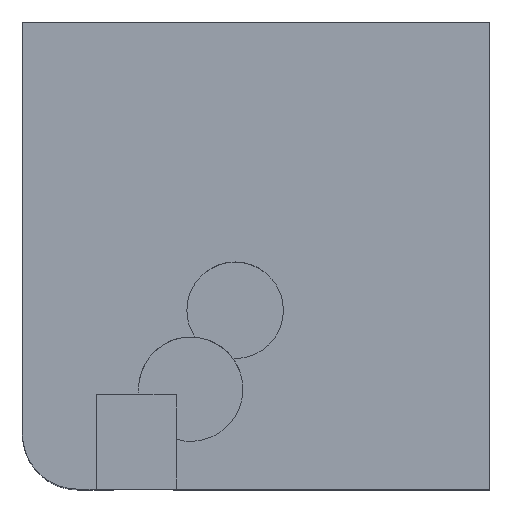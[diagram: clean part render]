
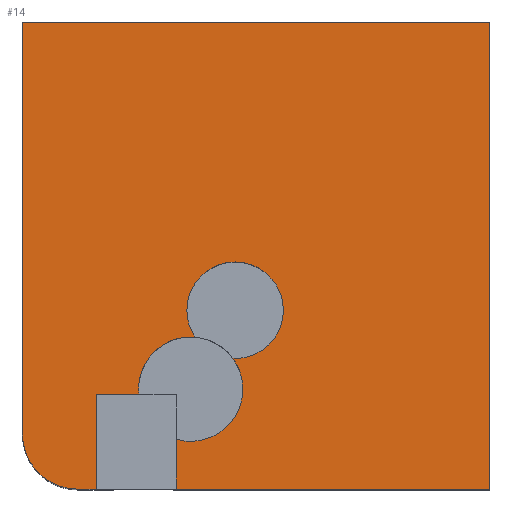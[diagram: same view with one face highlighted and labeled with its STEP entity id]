
A CAD part, top view. The second image highlights one B-rep face of the part: STEP entity #14.
In plain terms, the highlighted planar face has unit normal (0, 0, 1).
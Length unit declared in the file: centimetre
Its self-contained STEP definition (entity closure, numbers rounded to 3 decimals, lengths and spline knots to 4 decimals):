
#3 = ORIENTED_EDGE ( 'NONE', *, *, #1206, .T. ) ;
#14 = ADVANCED_FACE ( 'NONE', ( #28 ), #1259, .T. ) ;
#17 = CARTESIAN_POINT ( 'NONE',  ( 455.3777, 383.009, 1000. ) ) ;
#24 = VERTEX_POINT ( 'NONE', #489 ) ;
#28 = FACE_OUTER_BOUND ( 'NONE', #1355, .T. ) ;
#49 = DIRECTION ( 'NONE',  ( 0., 0., 1. ) ) ;
#78 = CARTESIAN_POINT ( 'NONE',  ( 360.2032, 214.2385, 1000. ) ) ;
#79 = DIRECTION ( 'NONE',  ( 0., 0., 1. ) ) ;
#133 = AXIS2_PLACEMENT_3D ( 'NONE', #17, #1215, #987 ) ;
#142 = VERTEX_POINT ( 'NONE', #724 ) ;
#149 = DIRECTION ( 'NONE',  ( 1., 0., 0. ) ) ;
#156 = ORIENTED_EDGE ( 'NONE', *, *, #160, .T. ) ;
#160 = EDGE_CURVE ( 'NONE', #674, #773, #851, .T. ) ;
#170 = CARTESIAN_POINT ( 'NONE',  ( 360.2032, 214.2385, 1000. ) ) ;
#171 = EDGE_CURVE ( 'NONE', #24, #360, #711, .T. ) ;
#173 = AXIS2_PLACEMENT_3D ( 'NONE', #517, #621, #510 ) ;
#175 = CARTESIAN_POINT ( 'NONE',  ( 1000., 0., 1000. ) ) ;
#189 = CARTESIAN_POINT ( 'NONE',  ( 118.3956, 118.3956, 1000. ) ) ;
#196 = CARTESIAN_POINT ( 'NONE',  ( 157.8945, 202.3316, 1000. ) ) ;
#202 = ORIENTED_EDGE ( 'NONE', *, *, #1092, .F. ) ;
#222 = CIRCLE ( 'NONE', #1004, 103.2949 ) ;
#225 = VECTOR ( 'NONE', #310, 100. ) ;
#242 = EDGE_CURVE ( 'NONE', #696, #142, #1427, .T. ) ;
#247 = DIRECTION ( 'NONE',  ( -1., 0., 0. ) ) ;
#250 = EDGE_CURVE ( 'NONE', #773, #714, #414, .T. ) ;
#255 = VERTEX_POINT ( 'NONE', #196 ) ;
#262 = CARTESIAN_POINT ( 'NONE',  ( 0., 0., 1000. ) ) ;
#264 = LINE ( 'NONE', #1231, #1272 ) ;
#273 = DIRECTION ( 'NONE',  ( -1., 0., 0. ) ) ;
#290 = EDGE_CURVE ( 'NONE', #1290, #674, #984, .T. ) ;
#292 = CIRCLE ( 'NONE', #1095, 111.7777 ) ;
#297 = ORIENTED_EDGE ( 'NONE', *, *, #1280, .T. ) ;
#303 = CARTESIAN_POINT ( 'NONE',  ( 329.552, 0., 1000. ) ) ;
#310 = DIRECTION ( 'NONE',  ( 1., 0., 0. ) ) ;
#317 = CARTESIAN_POINT ( 'NONE',  ( 0., 1000., 1000. ) ) ;
#322 = CARTESIAN_POINT ( 'NONE',  ( 157.8945, 0., 1000. ) ) ;
#340 = VECTOR ( 'NONE', #247, 100. ) ;
#360 = VERTEX_POINT ( 'NONE', #558 ) ;
#361 = CARTESIAN_POINT ( 'NONE',  ( 0., 1000., 1000. ) ) ;
#375 = ORIENTED_EDGE ( 'NONE', *, *, #740, .F. ) ;
#397 = CARTESIAN_POINT ( 'NONE',  ( 157.8945, 202.3316, 1000. ) ) ;
#402 = ORIENTED_EDGE ( 'NONE', *, *, #699, .F. ) ;
#405 = CARTESIAN_POINT ( 'NONE',  ( 360.2032, 214.2385, 1000. ) ) ;
#410 = VERTEX_POINT ( 'NONE', #443 ) ;
#412 = LINE ( 'NONE', #542, #1024 ) ;
#414 = LINE ( 'NONE', #1202, #225 ) ;
#418 = DIRECTION ( 'NONE',  ( 0., 0., 1. ) ) ;
#438 = CARTESIAN_POINT ( 'NONE',  ( 455.3777, 383.009, 1000. ) ) ;
#440 = ORIENTED_EDGE ( 'NONE', *, *, #891, .F. ) ;
#443 = CARTESIAN_POINT ( 'NONE',  ( 352.0828, 383.009, 1000. ) ) ;
#448 = VECTOR ( 'NONE', #273, 100. ) ;
#489 = CARTESIAN_POINT ( 'NONE',  ( 471.9809, 214.2385, 1000. ) ) ;
#502 = VECTOR ( 'NONE', #748, 100. ) ;
#507 = ORIENTED_EDGE ( 'NONE', *, *, #966, .F. ) ;
#510 = DIRECTION ( 'NONE',  ( 1., 0., 0. ) ) ;
#517 = CARTESIAN_POINT ( 'NONE',  ( 455.3777, 383.009, 1000. ) ) ;
#518 = VERTEX_POINT ( 'NONE', #570 ) ;
#532 = VERTEX_POINT ( 'NONE', #700 ) ;
#542 = CARTESIAN_POINT ( 'NONE',  ( 157.8945, 0., 1000. ) ) ;
#545 = DIRECTION ( 'NONE',  ( 0., -1., 0. ) ) ;
#553 = ORIENTED_EDGE ( 'NONE', *, *, #250, .T. ) ;
#558 = CARTESIAN_POINT ( 'NONE',  ( 450.7208, 279.8191, 1000. ) ) ;
#570 = CARTESIAN_POINT ( 'NONE',  ( 329.552, 0., 1000. ) ) ;
#577 = AXIS2_PLACEMENT_3D ( 'NONE', #262, #49, #149 ) ;
#589 = EDGE_CURVE ( 'NONE', #888, #255, #822, .T. ) ;
#593 = AXIS2_PLACEMENT_3D ( 'NONE', #405, #418, #1317 ) ;
#621 = DIRECTION ( 'NONE',  ( 0., 0., 1. ) ) ;
#625 = CARTESIAN_POINT ( 'NONE',  ( 360.2032, 214.2385, 1000. ) ) ;
#630 = DIRECTION ( 'NONE',  ( 1., 0., 0. ) ) ;
#634 = VECTOR ( 'NONE', #652, 100. ) ;
#648 = DIRECTION ( 'NONE',  ( 0., 0., 1. ) ) ;
#652 = DIRECTION ( 'NONE',  ( 0., 1., 0. ) ) ;
#654 = VERTEX_POINT ( 'NONE', #1397 ) ;
#665 = VECTOR ( 'NONE', #545, 100. ) ;
#674 = VERTEX_POINT ( 'NONE', #705 ) ;
#676 = CARTESIAN_POINT ( 'NONE',  ( 249.0615, 202.3316, 1000. ) ) ;
#696 = VERTEX_POINT ( 'NONE', #175 ) ;
#699 = EDGE_CURVE ( 'NONE', #255, #714, #412, .T. ) ;
#700 = CARTESIAN_POINT ( 'NONE',  ( 248.4256, 214.2385, 1000. ) ) ;
#705 = CARTESIAN_POINT ( 'NONE',  ( 0., 118.3956, 1000. ) ) ;
#711 = CIRCLE ( 'NONE', #1051, 111.7777 ) ;
#714 = VERTEX_POINT ( 'NONE', #322 ) ;
#724 = CARTESIAN_POINT ( 'NONE',  ( 1000., 1000., 1000. ) ) ;
#733 = DIRECTION ( 'NONE',  ( 1., 0., 0. ) ) ;
#739 = CARTESIAN_POINT ( 'NONE',  ( 329.552, 106.7455, 1000. ) ) ;
#740 = EDGE_CURVE ( 'NONE', #532, #888, #1219, .T. ) ;
#748 = DIRECTION ( 'NONE',  ( 0., 1., 0. ) ) ;
#751 = CIRCLE ( 'NONE', #133, 103.2949 ) ;
#752 = EDGE_CURVE ( 'NONE', #1424, #24, #1268, .T. ) ;
#755 = DIRECTION ( 'NONE',  ( 0., -1., 0. ) ) ;
#773 = VERTEX_POINT ( 'NONE', #1308 ) ;
#784 = ORIENTED_EDGE ( 'NONE', *, *, #171, .F. ) ;
#788 = EDGE_CURVE ( 'NONE', #518, #1424, #1408, .T. ) ;
#792 = ORIENTED_EDGE ( 'NONE', *, *, #290, .T. ) ;
#822 = LINE ( 'NONE', #397, #448 ) ;
#851 = CIRCLE ( 'NONE', #1012, 118.3956 ) ;
#875 = LINE ( 'NONE', #361, #340 ) ;
#883 = ORIENTED_EDGE ( 'NONE', *, *, #589, .F. ) ;
#888 = VERTEX_POINT ( 'NONE', #676 ) ;
#890 = ORIENTED_EDGE ( 'NONE', *, *, #242, .T. ) ;
#891 = EDGE_CURVE ( 'NONE', #1329, #410, #751, .T. ) ;
#951 = DIRECTION ( 'NONE',  ( 0., 0., 1. ) ) ;
#966 = EDGE_CURVE ( 'NONE', #410, #654, #1169, .T. ) ;
#984 = LINE ( 'NONE', #317, #665 ) ;
#987 = DIRECTION ( 'NONE',  ( 1., 0., 0. ) ) ;
#994 = CARTESIAN_POINT ( 'NONE',  ( 0., 1000., 1000. ) ) ;
#1004 = AXIS2_PLACEMENT_3D ( 'NONE', #438, #648, #1085 ) ;
#1012 = AXIS2_PLACEMENT_3D ( 'NONE', #189, #1393, #733 ) ;
#1024 = VECTOR ( 'NONE', #755, 100. ) ;
#1044 = AXIS2_PLACEMENT_3D ( 'NONE', #78, #951, #1420 ) ;
#1051 = AXIS2_PLACEMENT_3D ( 'NONE', #625, #79, #630 ) ;
#1085 = DIRECTION ( 'NONE',  ( 1., 0., 0. ) ) ;
#1092 = EDGE_CURVE ( 'NONE', #654, #532, #292, .T. ) ;
#1095 = AXIS2_PLACEMENT_3D ( 'NONE', #170, #1396, #1286 ) ;
#1105 = DIRECTION ( 'NONE',  ( 1., 0., 0. ) ) ;
#1144 = CARTESIAN_POINT ( 'NONE',  ( 558.6726, 383.009, 1000. ) ) ;
#1161 = ORIENTED_EDGE ( 'NONE', *, *, #752, .F. ) ;
#1169 = CIRCLE ( 'NONE', #173, 103.2949 ) ;
#1191 = EDGE_CURVE ( 'NONE', #360, #1329, #222, .T. ) ;
#1202 = CARTESIAN_POINT ( 'NONE',  ( 0., 0., 1000. ) ) ;
#1206 = EDGE_CURVE ( 'NONE', #142, #1290, #875, .T. ) ;
#1215 = DIRECTION ( 'NONE',  ( 0., 0., 1. ) ) ;
#1219 = CIRCLE ( 'NONE', #1044, 111.7777 ) ;
#1229 = ORIENTED_EDGE ( 'NONE', *, *, #788, .F. ) ;
#1231 = CARTESIAN_POINT ( 'NONE',  ( 0., 0., 1000. ) ) ;
#1259 = PLANE ( 'NONE',  #577 ) ;
#1268 = CIRCLE ( 'NONE', #593, 111.7777 ) ;
#1272 = VECTOR ( 'NONE', #1105, 100. ) ;
#1280 = EDGE_CURVE ( 'NONE', #518, #696, #264, .T. ) ;
#1286 = DIRECTION ( 'NONE',  ( 1., 0., 0. ) ) ;
#1290 = VERTEX_POINT ( 'NONE', #994 ) ;
#1308 = CARTESIAN_POINT ( 'NONE',  ( 118.3956, 0., 1000. ) ) ;
#1309 = CARTESIAN_POINT ( 'NONE',  ( 1000., 1000., 1000. ) ) ;
#1317 = DIRECTION ( 'NONE',  ( 1., 0., 0. ) ) ;
#1329 = VERTEX_POINT ( 'NONE', #1144 ) ;
#1355 = EDGE_LOOP ( 'NONE', ( #202, #507, #440, #1418, #784, #1161, #1229, #297, #890, #3, #792, #156, #553, #402, #883, #375 ) ) ;
#1393 = DIRECTION ( 'NONE',  ( 0., 0., 1. ) ) ;
#1396 = DIRECTION ( 'NONE',  ( 0., 0., 1. ) ) ;
#1397 = CARTESIAN_POINT ( 'NONE',  ( 369.4853, 325.6301, 1000. ) ) ;
#1408 = LINE ( 'NONE', #303, #634 ) ;
#1418 = ORIENTED_EDGE ( 'NONE', *, *, #1191, .F. ) ;
#1420 = DIRECTION ( 'NONE',  ( 1., 0., 0. ) ) ;
#1424 = VERTEX_POINT ( 'NONE', #739 ) ;
#1427 = LINE ( 'NONE', #1309, #502 ) ;
